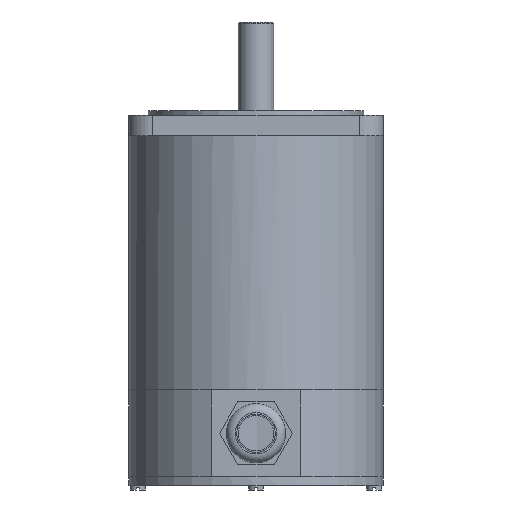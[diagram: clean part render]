
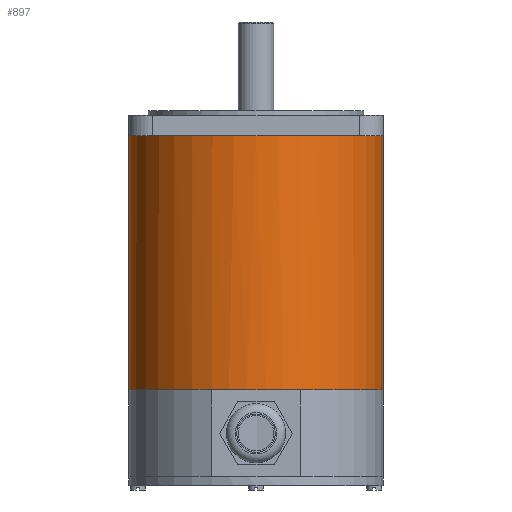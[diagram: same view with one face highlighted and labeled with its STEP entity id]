
A CAD part, front view. The second image highlights one B-rep face of the part: STEP entity #897.
In plain terms, the highlighted cylindrical face has radius 43 mm (diameter 86 mm), a full revolution.
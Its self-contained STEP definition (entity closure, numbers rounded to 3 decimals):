
#187=CARTESIAN_POINT('',(-69.773,-46.811,77.005));
#188=VERTEX_POINT('',#187);
#189=CARTESIAN_POINT('',(-26.773,-89.811,77.005));
#190=VERTEX_POINT('',#189);
#191=CARTESIAN_POINT('',(-69.773,-89.811,77.005));
#192=DIRECTION('',(0.0,0.0,-1.0));
#193=DIRECTION('',(-1.0,0.0,0.0));
#194=AXIS2_PLACEMENT_3D('',#191,#192,#193);
#195=CIRCLE('',#194,43.0);
#196=EDGE_CURVE('',#188,#190,#195,.T.);
#240=CARTESIAN_POINT('',(-112.773,-89.811,77.005));
#241=VERTEX_POINT('',#240);
#242=CARTESIAN_POINT('',(-69.773,-89.811,77.005));
#243=DIRECTION('',(0.0,0.0,-1.0));
#244=DIRECTION('',(-1.0,0.0,0.0));
#245=AXIS2_PLACEMENT_3D('',#242,#243,#244);
#246=CIRCLE('',#245,43.0);
#247=EDGE_CURVE('',#241,#188,#246,.T.);
#291=CARTESIAN_POINT('',(-69.773,-132.811,77.005));
#292=VERTEX_POINT('',#291);
#293=CARTESIAN_POINT('',(-69.773,-89.811,77.005));
#294=DIRECTION('',(0.0,0.0,-1.0));
#295=DIRECTION('',(-1.0,0.0,0.0));
#296=AXIS2_PLACEMENT_3D('',#293,#294,#295);
#297=CIRCLE('',#296,43.0);
#298=EDGE_CURVE('',#292,#241,#297,.T.);
#342=CARTESIAN_POINT('',(-69.773,-89.811,77.005));
#343=DIRECTION('',(0.0,0.0,-1.0));
#344=DIRECTION('',(-1.0,0.0,0.0));
#345=AXIS2_PLACEMENT_3D('',#342,#343,#344);
#346=CIRCLE('',#345,43.0);
#347=EDGE_CURVE('',#190,#292,#346,.T.);
#857=CARTESIAN_POINT('',(-69.773,-89.811,-8.995));
#858=DIRECTION('',(0.0,0.0,1.0));
#859=DIRECTION('',(-1.0,0.0,0.0));
#860=AXIS2_PLACEMENT_3D('',#857,#858,#859);
#861=CYLINDRICAL_SURFACE('',#860,43.0);
#862=ORIENTED_EDGE('',*,*,#347,.T.);
#863=ORIENTED_EDGE('',*,*,#298,.T.);
#864=ORIENTED_EDGE('',*,*,#247,.T.);
#865=ORIENTED_EDGE('',*,*,#196,.T.);
#866=EDGE_LOOP('',(#862,#863,#864,#865));
#867=FACE_OUTER_BOUND('',#866,.T.);
#868=CARTESIAN_POINT('',(-26.773,-89.811,-8.995));
#869=VERTEX_POINT('',#868);
#870=CARTESIAN_POINT('',(-54.74,-130.098,-8.995));
#871=VERTEX_POINT('',#870);
#872=CARTESIAN_POINT('',(-69.773,-89.811,-8.995));
#873=DIRECTION('',(0.0,0.0,-1.0));
#874=DIRECTION('',(-0.35,0.937,0.0));
#875=AXIS2_PLACEMENT_3D('',#872,#873,#874);
#876=CIRCLE('',#875,43.);
#877=EDGE_CURVE('',#869,#871,#876,.T.);
#878=ORIENTED_EDGE('',*,*,#877,.F.);
#879=CARTESIAN_POINT('',(-84.806,-130.098,-8.995));
#880=VERTEX_POINT('',#879);
#881=CARTESIAN_POINT('',(-69.773,-89.811,-8.995));
#882=DIRECTION('',(0.0,0.0,-1.0));
#883=DIRECTION('',(-0.35,0.937,0.0));
#884=AXIS2_PLACEMENT_3D('',#881,#882,#883);
#885=CIRCLE('',#884,43.);
#886=EDGE_CURVE('',#880,#869,#885,.T.);
#887=ORIENTED_EDGE('',*,*,#886,.F.);
#888=CARTESIAN_POINT('',(-69.773,-89.811,-8.995));
#889=DIRECTION('',(0.0,0.0,-1.0));
#890=DIRECTION('',(-1.0,0.0,0.0));
#891=AXIS2_PLACEMENT_3D('',#888,#889,#890);
#892=CIRCLE('',#891,43.0);
#893=EDGE_CURVE('',#871,#880,#892,.T.);
#894=ORIENTED_EDGE('',*,*,#893,.F.);
#895=EDGE_LOOP('',(#878,#887,#894));
#896=FACE_BOUND('',#895,.T.);
#897=ADVANCED_FACE('',(#867,#896),#861,.T.);
